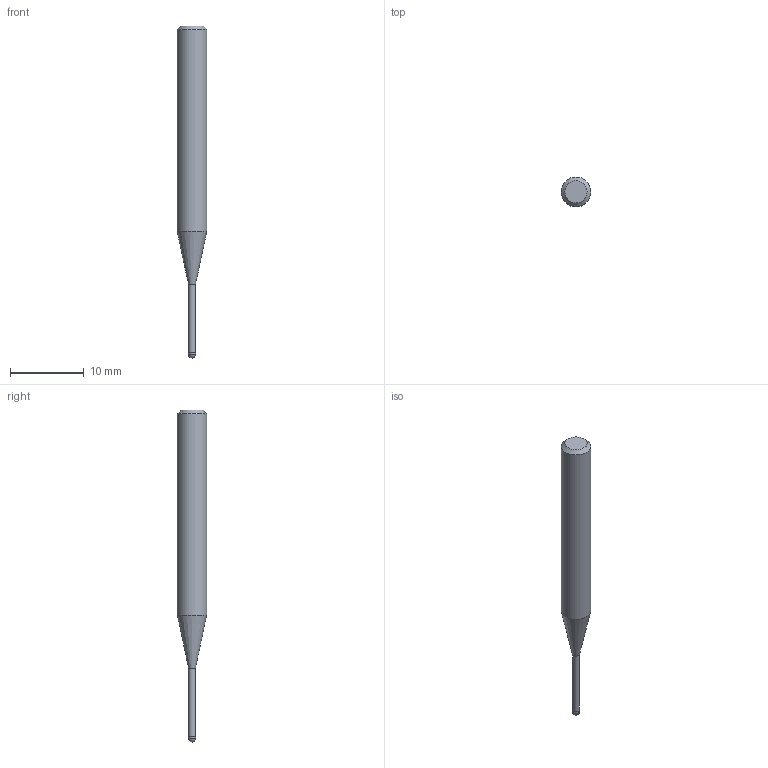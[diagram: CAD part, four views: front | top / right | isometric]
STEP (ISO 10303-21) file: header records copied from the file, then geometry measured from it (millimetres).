
FILE_DESCRIPTION((''),'2;1');
FILE_NAME('C:\Users\nsx150\AppData\Local\Temp\Mastercam 2021\ZXBT0ST9RL\TEMP.step','2021-06-25T11:02:54',(''),(''),'STEP Write','Mastercam 2021 ... CNC Software, Inc.','');
FILE_SCHEMA(('AUTOMOTIVE_DESIGN'));
Length unit declared in the file: millimetre
Products named in the file (1): None
Bounding box: 4 x 4 x 45 mm (x, y, z)
Volume: 394.1 mm3; surface area: 446.7 mm2
Topology: 2 solids, 2 shells, 9 faces, 14 edges, 8 vertices
Faces by surface type: plane 3, cylinder 3, cone 2, sphere 1
Full cylindrical faces by diameter (mm): 0.95 x1, 1 x1, 4 x1
Entity records: 211 total; most frequent: DIRECTION 36, CARTESIAN_POINT 25, AXIS2_PLACEMENT_3D 18, ORIENTED_EDGE 14, EDGE_LOOP 14, STYLED_ITEM 12, ADVANCED_FACE 9, FACE_BOUND 8
